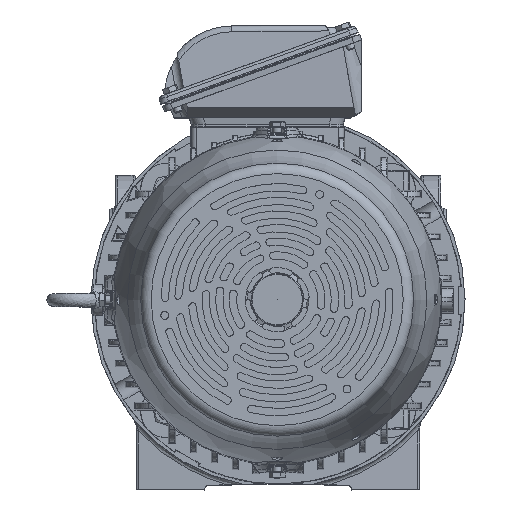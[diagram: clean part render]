
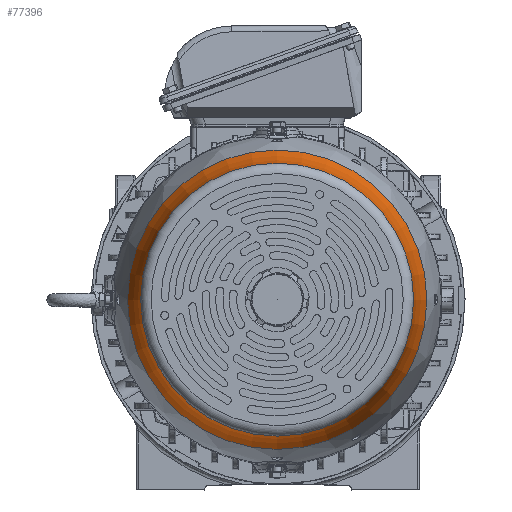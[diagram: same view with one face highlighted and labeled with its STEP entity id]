
A CAD part, top view. The second image highlights one B-rep face of the part: STEP entity #77396.
In plain terms, the highlighted toroidal (fillet/blend) face has major radius 308.616 mm and minor radius 180 mm.
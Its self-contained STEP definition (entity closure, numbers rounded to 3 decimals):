
#55=TOROIDAL_SURFACE('',#82903,308.617,180.);
#7996=FACE_OUTER_BOUND('',#12481,.T.);
#12481=EDGE_LOOP('',(#51868,#51869,#51870,#51871,#51872,#51873));
#17559=CIRCLE('',#82884,142.487);
#17560=CIRCLE('',#82885,142.487);
#17578=CIRCLE('',#82904,180.);
#17579=CIRCLE('',#82905,129.927);
#17580=CIRCLE('',#82906,129.927);
#31098=VERTEX_POINT('',#119472);
#31099=VERTEX_POINT('',#119476);
#31133=VERTEX_POINT('',#119766);
#31134=VERTEX_POINT('',#119768);
#39146=EDGE_CURVE('',#31098,#31099,#17559,.T.);
#39147=EDGE_CURVE('',#31099,#31098,#17560,.T.);
#39182=EDGE_CURVE('',#31098,#31133,#17578,.T.);
#39183=EDGE_CURVE('',#31133,#31134,#17579,.T.);
#39184=EDGE_CURVE('',#31134,#31133,#17580,.T.);
#51868=ORIENTED_EDGE('',*,*,#39147,.F.);
#51869=ORIENTED_EDGE('',*,*,#39146,.F.);
#51870=ORIENTED_EDGE('',*,*,#39182,.T.);
#51871=ORIENTED_EDGE('',*,*,#39183,.T.);
#51872=ORIENTED_EDGE('',*,*,#39184,.T.);
#51873=ORIENTED_EDGE('',*,*,#39182,.F.);
#77396=ADVANCED_FACE('',(#7996),#55,.F.);
#82884=AXIS2_PLACEMENT_3D('',#119477,#93101,#93102);
#82885=AXIS2_PLACEMENT_3D('',#119478,#93103,#93104);
#82903=AXIS2_PLACEMENT_3D('',#119765,#93139,#93140);
#82904=AXIS2_PLACEMENT_3D('',#119767,#93141,#93142);
#82905=AXIS2_PLACEMENT_3D('',#119769,#93143,#93144);
#82906=AXIS2_PLACEMENT_3D('',#119770,#93145,#93146);
#93101=DIRECTION('center_axis',(0.,0.,
-1.));
#93102=DIRECTION('ref_axis',(-1.,0.,0.));
#93103=DIRECTION('center_axis',(0.,0.,
-1.));
#93104=DIRECTION('ref_axis',(-1.,0.,0.));
#93139=DIRECTION('center_axis',(0.,0.,
-1.));
#93140=DIRECTION('ref_axis',(-1.,0.,0.));
#93141=DIRECTION('center_axis',(0.,1.,0.));
#93142=DIRECTION('ref_axis',(1.,0.,0.));
#93143=DIRECTION('center_axis',(0.,0.,
-1.));
#93144=DIRECTION('ref_axis',(-1.,0.,0.));
#93145=DIRECTION('center_axis',(0.,0.,
-1.));
#93146=DIRECTION('ref_axis',(-1.,0.,0.));
#119472=CARTESIAN_POINT('',(141.623,0.,553.399));
#119476=CARTESIAN_POINT('',(-143.35,0.,553.399));
#119477=CARTESIAN_POINT('Origin',(-0.863,0.,
553.399));
#119478=CARTESIAN_POINT('Origin',(-0.863,0.,
553.399));
#119765=CARTESIAN_POINT('Origin',(-0.863,0.,
622.687));
#119766=CARTESIAN_POINT('',(129.064,0.,601.005));
#119767=CARTESIAN_POINT('Origin',(307.753,0.,
622.687));
#119768=CARTESIAN_POINT('',(-130.791,0.,601.005));
#119769=CARTESIAN_POINT('Origin',(-0.863,0.,
601.005));
#119770=CARTESIAN_POINT('Origin',(-0.863,0.,
601.005));
